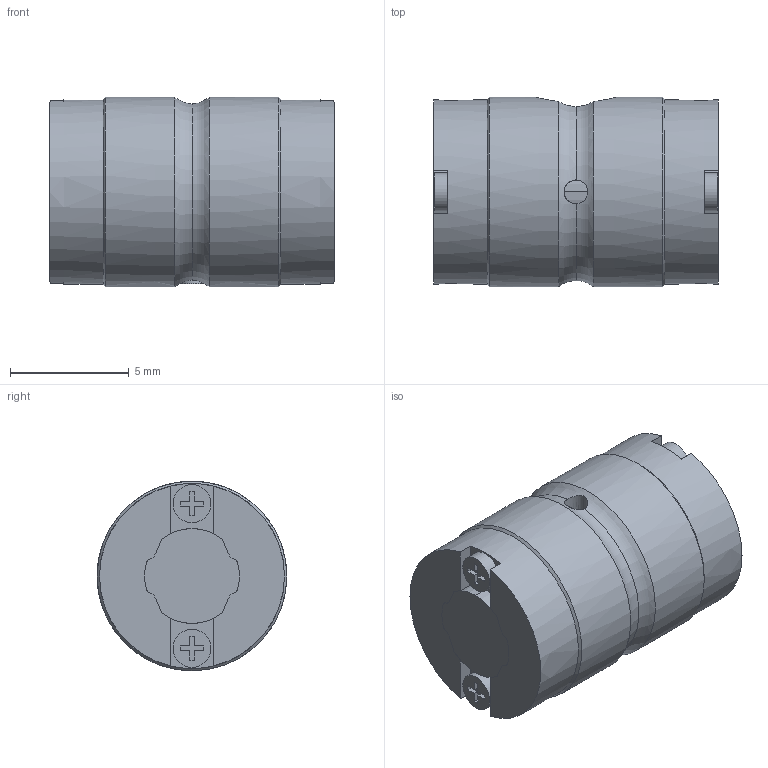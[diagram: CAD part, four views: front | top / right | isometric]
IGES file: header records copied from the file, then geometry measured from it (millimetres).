
Start section: Data from Parasolid IGES Translator 26.0.171, Copyright(c) 2006 Siemens PLM Software. All Rights Reserved.
Global section: file name: LT4X+12L(00).igs; native system: By Siemens PLM Incorporated; preprocessor: XPlus GENERIC/IGES 26.0.171; author: Noname; organization: Noname; date: 20240528.070638; units: millimetre
Bounding box: 12 x 8 x 8 mm (x, y, z)
Surface area: 731.7 mm2 (no closed solid volume)
Topology: 0 solids, 0 shells, 133 faces, 749 edges, 733 vertices
Faces by surface type: extrusion 82, revolution 51
